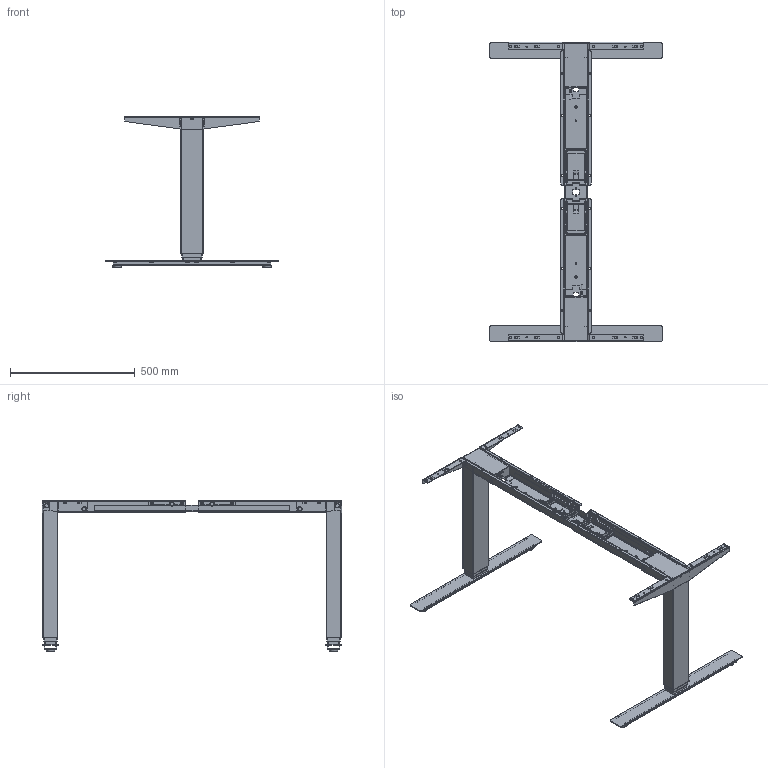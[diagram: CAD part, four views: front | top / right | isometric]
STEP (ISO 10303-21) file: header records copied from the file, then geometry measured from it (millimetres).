
FILE_DESCRIPTION(/* description */ ('Unknown'),/* implementation_level */ '2;1');
FILE_NAME(/* name */ '116.00077 UntergestelL FC 650 3.0_eingefahren',/* time_stamp */ '2018-07-09T11:30:30+02:00',/* author */ ('Unknown'),/* organization */ ('Unknown'),/* preprocessor_version */ 'ST-DEVELOPER v16.7',/* originating_system */ 'DEX',/* authorisation */ $);
FILE_SCHEMA (('AUTOMOTIVE_DESIGN {1 0 10303 214 3 1 1}'));
Products named in the file (2): 116.00077; FC 3.0_eingefahren
Assembly tree (1 placements, depth 2):
  116.00077
    FC 3.0_eingefahren
Bounding box: 690 x 1200 x 605.8 mm (x, y, z)
Surface area: 1605070.5 mm2 (no closed solid volume)
Topology: 0 solids, 143 shells, 1322 faces, 6194 edges, 4828 vertices
Faces by surface type: plane 686, cylinder 496, torus 68, bspline 32, sphere 20, cone 20
Full cylindrical faces by diameter (mm): 5 x4, 5.5 x2, 7 x4, 7.6 x4, 8 x6, 8.5 x2, 10 x2, 14 x4, 16 x8
Entity records: 64133 total; most frequent: CARTESIAN_POINT 14284, DIRECTION 10404, ORIENTED_EDGE 8240, EDGE_CURVE 6102, VERTEX_POINT 4820, LINE 3792, VECTOR 3792, AXIS2_PLACEMENT_3D 3306
